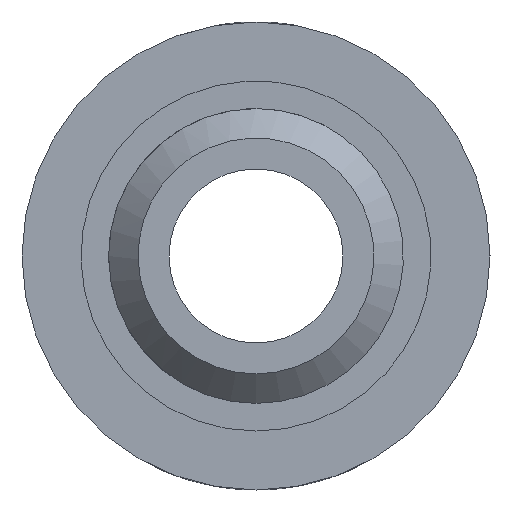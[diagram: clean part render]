
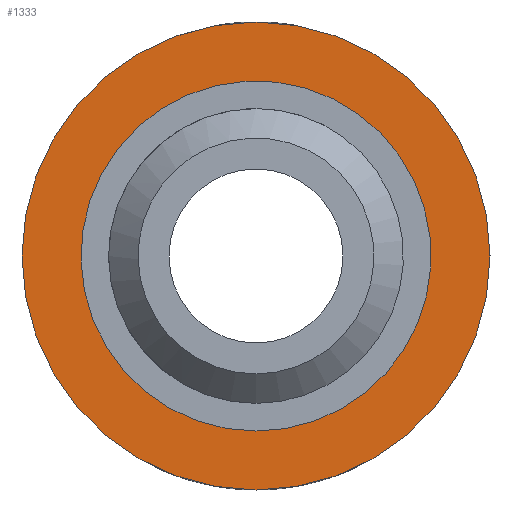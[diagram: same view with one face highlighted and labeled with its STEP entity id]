
A CAD part, left-side view. The second image highlights one B-rep face of the part: STEP entity #1333.
In plain terms, the highlighted planar face has unit normal (-1, 0, 0).
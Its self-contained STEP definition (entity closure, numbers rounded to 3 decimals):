
#49=PLANE('',#1488);
#87=FACE_BOUND('',#198,.T.);
#115=FACE_OUTER_BOUND('',#197,.T.);
#197=EDGE_LOOP('',(#1072,#1073));
#198=EDGE_LOOP('',(#1074,#1075));
#308=CIRCLE('',#1472,2.375);
#309=CIRCLE('',#1473,2.375);
#312=CIRCLE('',#1477,3.175);
#319=CIRCLE('',#1484,3.175);
#628=VERTEX_POINT('',#2380);
#629=VERTEX_POINT('',#2381);
#632=VERTEX_POINT('',#2390);
#633=VERTEX_POINT('',#2391);
#784=EDGE_CURVE('',#628,#629,#308,.T.);
#785=EDGE_CURVE('',#629,#628,#309,.T.);
#789=EDGE_CURVE('',#632,#633,#312,.T.);
#802=EDGE_CURVE('',#633,#632,#319,.T.);
#1072=ORIENTED_EDGE('',*,*,#789,.F.);
#1073=ORIENTED_EDGE('',*,*,#802,.F.);
#1074=ORIENTED_EDGE('',*,*,#784,.T.);
#1075=ORIENTED_EDGE('',*,*,#785,.T.);
#1333=ADVANCED_FACE('',(#115,#87),#49,.F.);
#1472=AXIS2_PLACEMENT_3D('',#2382,#1659,#1660);
#1473=AXIS2_PLACEMENT_3D('',#2383,#1661,#1662);
#1477=AXIS2_PLACEMENT_3D('',#2392,#1670,#1671);
#1484=AXIS2_PLACEMENT_3D('',#2439,#1688,#1689);
#1488=AXIS2_PLACEMENT_3D('',#2848,#1702,#1703);
#1659=DIRECTION('center_axis',(1.,0.,0.));
#1660=DIRECTION('ref_axis',(0.,0.,-1.));
#1661=DIRECTION('center_axis',(1.,0.,0.));
#1662=DIRECTION('ref_axis',(0.,0.,-1.));
#1670=DIRECTION('center_axis',(1.,0.,0.));
#1671=DIRECTION('ref_axis',(0.,0.,-1.));
#1688=DIRECTION('center_axis',(1.,0.,0.));
#1689=DIRECTION('ref_axis',(0.,0.,-1.));
#1702=DIRECTION('center_axis',(1.,0.,0.));
#1703=DIRECTION('ref_axis',(0.,0.,-1.));
#2380=CARTESIAN_POINT('',(-4.5,0.,-2.375));
#2381=CARTESIAN_POINT('',(-4.5,-1.396,1.921));
#2382=CARTESIAN_POINT('Origin',(-4.5,0.,0.));
#2383=CARTESIAN_POINT('Origin',(-4.5,0.,0.));
#2390=CARTESIAN_POINT('',(-4.5,0.,3.175));
#2391=CARTESIAN_POINT('',(-4.5,0.,-3.175));
#2392=CARTESIAN_POINT('Origin',(-4.5,0.,0.));
#2439=CARTESIAN_POINT('Origin',(-4.5,0.,0.));
#2848=CARTESIAN_POINT('Origin',(-4.5,0.,0.));
